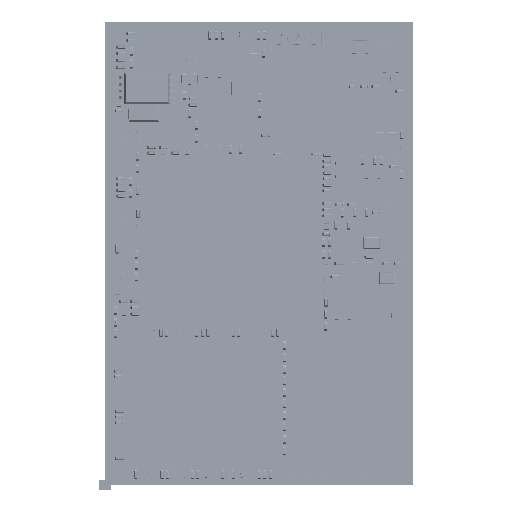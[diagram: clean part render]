
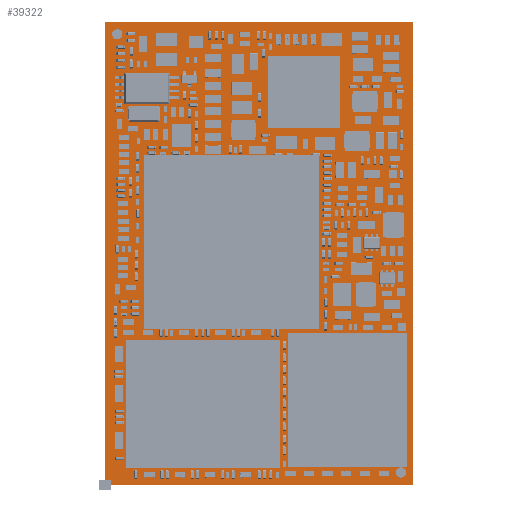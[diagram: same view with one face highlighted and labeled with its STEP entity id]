
A CAD part, top view. The second image highlights one B-rep face of the part: STEP entity #39322.
In plain terms, the highlighted planar face has unit normal (0, 0, 1).
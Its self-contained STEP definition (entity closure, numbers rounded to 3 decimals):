
#16119=CIRCLE($,#33995,0.5);
#16120=CIRCLE($,#33996,0.5);
#16123=CIRCLE($,#34001,0.5);
#16124=CIRCLE($,#34002,0.5);
#28755=FACE_OUTER_BOUND($,#31270,.F.);
#28761=FACE_OUTER_BOUND($,#31276,.F.);
#28765=FACE_OUTER_BOUND($,#31280,.F.);
#31270=EDGE_LOOP($,(#41833,#41834,#41835,#41836));
#31276=EDGE_LOOP($,(#41857,#41858));
#31280=EDGE_LOOP($,(#41869,#41870));
#33989=AXIS2_PLACEMENT_3D($,#76948,#66444,$);
#33995=AXIS2_PLACEMENT_3D($,#76960,#66444,$);
#33996=AXIS2_PLACEMENT_3D($,#76961,#66444,$);
#34001=AXIS2_PLACEMENT_3D($,#76972,#66444,$);
#34002=AXIS2_PLACEMENT_3D($,#76973,#66444,$);
#38480=PLANE($,#33989);
#39322=ADVANCED_FACE($,(#28755,#28761,#28765),#38480,.T.);
#41833=ORIENTED_EDGE($,*,*,#51368,.T.);
#41834=ORIENTED_EDGE($,*,*,#51369,.T.);
#41835=ORIENTED_EDGE($,*,*,#51370,.T.);
#41836=ORIENTED_EDGE($,*,*,#51371,.T.);
#41857=ORIENTED_EDGE($,*,*,#51381,.T.);
#41858=ORIENTED_EDGE($,*,*,#51382,.T.);
#41869=ORIENTED_EDGE($,*,*,#51388,.T.);
#41870=ORIENTED_EDGE($,*,*,#51389,.T.);
#51368=EDGE_CURVE($,#60670,#60671,#58407,.T.);
#51369=EDGE_CURVE($,#60671,#60672,#58408,.T.);
#51370=EDGE_CURVE($,#60672,#60673,#58409,.T.);
#51371=EDGE_CURVE($,#60673,#60670,#58410,.T.);
#51381=EDGE_CURVE($,#60680,#60681,#16119,.T.);
#51382=EDGE_CURVE($,#60681,#60680,#16120,.T.);
#51388=EDGE_CURVE($,#60686,#60687,#16123,.T.);
#51389=EDGE_CURVE($,#60687,#60686,#16124,.T.);
#56144=VECTOR($,#66447,45.);
#56145=VECTOR($,#66448,30.);
#56146=VECTOR($,#66449,45.);
#56147=VECTOR($,#66450,30.);
#58407=LINE($,#76947,#56144);
#58408=LINE($,#76948,#56145);
#58409=LINE($,#76949,#56146);
#58410=LINE($,#76950,#56147);
#60670=VERTEX_POINT($,#76947);
#60671=VERTEX_POINT($,#76948);
#60672=VERTEX_POINT($,#76949);
#60673=VERTEX_POINT($,#76950);
#60680=VERTEX_POINT($,#76957);
#60681=VERTEX_POINT($,#76958);
#60686=VERTEX_POINT($,#76969);
#60687=VERTEX_POINT($,#76970);
#66444=DIRECTION($,(0.,0.,1.));
#66447=DIRECTION($,(0.,1.,0.));
#66448=DIRECTION($,(1.,0.,0.));
#66449=DIRECTION($,(0.,-1.,0.));
#66450=DIRECTION($,(-1.,0.,0.));
#76947=CARTESIAN_POINT('',(0.,0.,0.));
#76948=CARTESIAN_POINT('',(0.,45.,0.));
#76949=CARTESIAN_POINT('',(30.,45.,0.));
#76950=CARTESIAN_POINT('',(30.,0.,0.));
#76957=CARTESIAN_POINT('',(29.3,1.2,0.));
#76958=CARTESIAN_POINT('',(28.3,1.2,0.));
#76960=CARTESIAN_POINT('',(28.8,1.2,0.));
#76961=CARTESIAN_POINT('',(28.8,1.2,0.));
#76969=CARTESIAN_POINT('',(1.7,43.8,0.));
#76970=CARTESIAN_POINT('',(0.7,43.8,0.));
#76972=CARTESIAN_POINT('',(1.2,43.8,0.));
#76973=CARTESIAN_POINT('',(1.2,43.8,0.));
